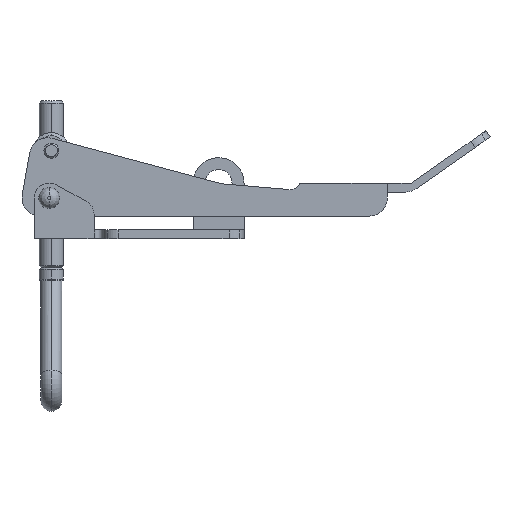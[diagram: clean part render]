
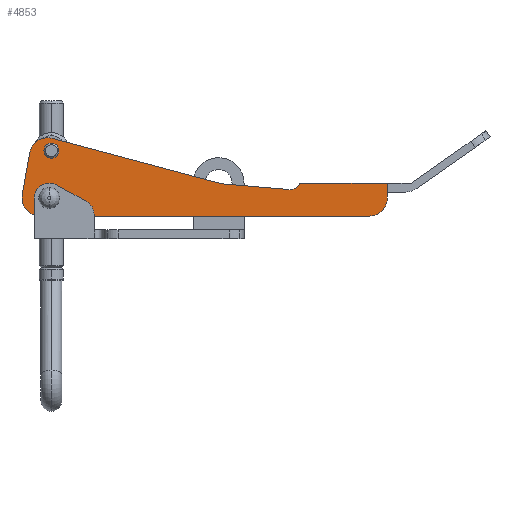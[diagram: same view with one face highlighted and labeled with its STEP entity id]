
A CAD part, front view. The second image highlights one B-rep face of the part: STEP entity #4853.
In plain terms, the highlighted planar face has unit normal (0, -1, 0) as drawn and (0, 0, 1) by its records, which use the part's own axes.
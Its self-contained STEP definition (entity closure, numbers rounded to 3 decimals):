
#2792=CARTESIAN_POINT('',(-59.09,11.357,30.5));
#2793=VERTEX_POINT('',#2792);
#2802=CARTESIAN_POINT('',(-54.313,12.093,30.5));
#2803=VERTEX_POINT('',#2802);
#2804=CARTESIAN_POINT('',(-55.866,6.297,30.5));
#2805=DIRECTION('',(0.0,0.0,-1.));
#2806=DIRECTION('',(-0.537,0.843,0.0));
#2807=AXIS2_PLACEMENT_3D('',#2804,#2805,#2806);
#2808=CIRCLE('',#2807,6.0);
#2809=EDGE_CURVE('',#2793,#2803,#2808,.T.);
#2834=CARTESIAN_POINT('',(-62.946,-11.644,30.5));
#2835=VERTEX_POINT('',#2834);
#2844=CARTESIAN_POINT('',(-64.258,-6.745,30.5));
#2845=VERTEX_POINT('',#2844);
#2846=CARTESIAN_POINT('',(-58.349,-7.787,30.5));
#2847=DIRECTION('',(0.0,0.0,-1.0));
#2848=DIRECTION('',(-0.766,-0.643,0.0));
#2849=AXIS2_PLACEMENT_3D('',#2846,#2847,#2848);
#2850=CIRCLE('',#2849,6.0);
#2851=EDGE_CURVE('',#2835,#2845,#2850,.T.);
#2960=CARTESIAN_POINT('',(26.426,-4.736,30.5));
#2961=VERTEX_POINT('',#2960);
#2970=CARTESIAN_POINT('',(27.571,-3.894,30.5));
#2971=VERTEX_POINT('',#2970);
#2972=CARTESIAN_POINT('',(25.273,-1.966,30.5));
#2973=DIRECTION('',(0.0,0.0,1.0));
#2974=DIRECTION('',(0.384,-0.923,0.0));
#2975=AXIS2_PLACEMENT_3D('',#2972,#2973,#2974);
#2976=CIRCLE('',#2975,3.);
#2977=EDGE_CURVE('',#2961,#2971,#2976,.T.);
#3147=CARTESIAN_POINT('',(55.743,-12.03,30.5));
#3148=VERTEX_POINT('',#3147);
#3157=CARTESIAN_POINT('',(51.5,-13.787,30.5));
#3158=VERTEX_POINT('',#3157);
#3159=CARTESIAN_POINT('',(51.5,-7.787,30.5));
#3160=DIRECTION('',(0.0,0.0,-1.));
#3161=DIRECTION('',(0.707,-0.707,0.0));
#3162=AXIS2_PLACEMENT_3D('',#3159,#3160,#3161);
#3163=CIRCLE('',#3162,6.0);
#3164=EDGE_CURVE('',#3148,#3158,#3163,.T.);
#3357=CARTESIAN_POINT('',(-52.048,8.014,30.5));
#3358=VERTEX_POINT('',#3357);
#3367=CARTESIAN_POINT('',(-57.048,8.014,30.5));
#3368=VERTEX_POINT('',#3367);
#3369=CARTESIAN_POINT('',(-54.548,8.014,30.5));
#3370=DIRECTION('',(0.0,0.0,-1.0));
#3371=DIRECTION('',(1.0,0.0,0.0));
#3372=AXIS2_PLACEMENT_3D('',#3369,#3370,#3371);
#3373=CIRCLE('',#3372,2.5);
#3374=EDGE_CURVE('',#3368,#3358,#3373,.T.);
#3441=CARTESIAN_POINT('',(-52.803,-7.787,30.5));
#3442=VERTEX_POINT('',#3441);
#3451=CARTESIAN_POINT('',(-57.803,-7.787,30.5));
#3452=VERTEX_POINT('',#3451);
#3453=CARTESIAN_POINT('',(-55.303,-7.787,30.5));
#3454=DIRECTION('',(0.0,0.0,-1.0));
#3455=DIRECTION('',(1.0,0.0,0.0));
#3456=AXIS2_PLACEMENT_3D('',#3453,#3454,#3455);
#3457=CIRCLE('',#3456,2.5);
#3458=EDGE_CURVE('',#3452,#3442,#3457,.T.);
#3558=CARTESIAN_POINT('',(-55.303,-7.787,30.5));
#3559=DIRECTION('',(0.0,0.0,-1.0));
#3560=DIRECTION('',(1.0,0.0,0.0));
#3561=AXIS2_PLACEMENT_3D('',#3558,#3559,#3560);
#3562=CIRCLE('',#3561,2.5);
#3563=EDGE_CURVE('',#3442,#3452,#3562,.T.);
#3606=CARTESIAN_POINT('',(-54.548,8.014,30.5));
#3607=DIRECTION('',(0.0,0.0,-1.0));
#3608=DIRECTION('',(1.0,0.0,0.0));
#3609=AXIS2_PLACEMENT_3D('',#3606,#3607,#3608);
#3610=CIRCLE('',#3609,2.5);
#3611=EDGE_CURVE('',#3358,#3368,#3610,.T.);
#3997=CARTESIAN_POINT('',(57.5,-7.787,30.5));
#3998=VERTEX_POINT('',#3997);
#4005=CARTESIAN_POINT('',(51.5,-7.787,30.5));
#4006=DIRECTION('',(0.0,0.0,-1.));
#4007=DIRECTION('',(0.707,-0.707,0.0));
#4008=AXIS2_PLACEMENT_3D('',#4005,#4006,#4007);
#4009=CIRCLE('',#4008,6.0);
#4010=EDGE_CURVE('',#3998,#3148,#4009,.T.);
#4028=CARTESIAN_POINT('',(57.5,-2.787,30.5));
#4029=VERTEX_POINT('',#4028);
#4036=CARTESIAN_POINT('',(57.5,-7.787,30.5));
#4037=DIRECTION('',(0.0,1.0,0.0));
#4038=VECTOR('',#4037,5.);
#4039=LINE('',#4036,#4038);
#4040=EDGE_CURVE('',#3998,#4029,#4039,.T.);
#4235=CARTESIAN_POINT('',(28.5,-2.787,30.5));
#4236=VERTEX_POINT('',#4235);
#4243=CARTESIAN_POINT('',(28.5,-2.787,30.5));
#4244=DIRECTION('',(1.0,0.0,0.0));
#4245=VECTOR('',#4244,29.0);
#4246=LINE('',#4243,#4245);
#4247=EDGE_CURVE('',#4236,#4029,#4246,.T.);
#4518=CARTESIAN_POINT('',(25.022,-4.955,30.5));
#4519=VERTEX_POINT('',#4518);
#4526=CARTESIAN_POINT('',(25.273,-1.966,30.5));
#4527=DIRECTION('',(0.0,0.0,1.0));
#4528=DIRECTION('',(0.384,-0.923,0.0));
#4529=AXIS2_PLACEMENT_3D('',#4526,#4527,#4528);
#4530=CIRCLE('',#4529,3.);
#4531=EDGE_CURVE('',#4519,#2961,#4530,.T.);
#4542=CARTESIAN_POINT('',(27.571,-3.894,30.5));
#4543=DIRECTION('',(0.643,0.766,0.0));
#4544=VECTOR('',#4543,1.445);
#4545=LINE('',#4542,#4544);
#4546=EDGE_CURVE('',#2971,#4236,#4545,.T.);
#4645=CARTESIAN_POINT('',(-58.349,-13.787,30.5));
#4646=VERTEX_POINT('',#4645);
#4653=CARTESIAN_POINT('',(-58.349,-7.787,30.5));
#4654=DIRECTION('',(0.0,0.0,-1.0));
#4655=DIRECTION('',(-0.766,-0.643,0.0));
#4656=AXIS2_PLACEMENT_3D('',#4653,#4654,#4655);
#4657=CIRCLE('',#4656,6.0);
#4658=EDGE_CURVE('',#4646,#2835,#4657,.T.);
#4669=CARTESIAN_POINT('',(-61.775,7.339,30.5));
#4670=VERTEX_POINT('',#4669);
#4671=CARTESIAN_POINT('',(-64.258,-6.745,30.5));
#4672=DIRECTION('',(0.174,0.985,0.0));
#4673=VECTOR('',#4672,14.302);
#4674=LINE('',#4671,#4673);
#4675=EDGE_CURVE('',#2845,#4670,#4674,.T.);
#4695=CARTESIAN_POINT('',(-55.866,6.297,30.5));
#4696=DIRECTION('',(0.0,0.0,-1.));
#4697=DIRECTION('',(-0.537,0.843,0.0));
#4698=AXIS2_PLACEMENT_3D('',#4695,#4696,#4697);
#4699=CIRCLE('',#4698,6.0);
#4700=EDGE_CURVE('',#4670,#2793,#4699,.T.);
#4771=CARTESIAN_POINT('',(51.5,-13.787,30.5));
#4772=DIRECTION('',(-1.0,0.0,0.0));
#4773=VECTOR('',#4772,109.849);
#4774=LINE('',#4771,#4773);
#4775=EDGE_CURVE('',#3158,#4646,#4774,.T.);
#4789=CARTESIAN_POINT('',(2.147,-3.036,30.5));
#4790=VERTEX_POINT('',#4789);
#4797=CARTESIAN_POINT('',(2.147,-3.036,30.5));
#4798=DIRECTION('',(0.996,-0.084,0.0));
#4799=VECTOR('',#4798,22.955);
#4800=LINE('',#4797,#4799);
#4801=EDGE_CURVE('',#4790,#4519,#4800,.T.);
#4812=CARTESIAN_POINT('',(-54.313,12.093,30.5));
#4813=DIRECTION('',(0.966,-0.259,0.0));
#4814=VECTOR('',#4813,58.452);
#4815=LINE('',#4812,#4814);
#4816=EDGE_CURVE('',#2803,#4790,#4815,.T.);
#4823=CARTESIAN_POINT('',(-2.794,-5.67,30.5));
#4824=DIRECTION('',(0.0,0.0,1.0));
#4825=DIRECTION('',(1.0,0.0,0.0));
#4826=AXIS2_PLACEMENT_3D('',#4823,#4824,#4825);
#4827=PLANE('',#4826);
#4828=ORIENTED_EDGE('',*,*,#4010,.F.);
#4829=ORIENTED_EDGE('',*,*,#4040,.T.);
#4830=ORIENTED_EDGE('',*,*,#4247,.F.);
#4831=ORIENTED_EDGE('',*,*,#4546,.F.);
#4832=ORIENTED_EDGE('',*,*,#2977,.F.);
#4833=ORIENTED_EDGE('',*,*,#4531,.F.);
#4834=ORIENTED_EDGE('',*,*,#4801,.F.);
#4835=ORIENTED_EDGE('',*,*,#4816,.F.);
#4836=ORIENTED_EDGE('',*,*,#2809,.F.);
#4837=ORIENTED_EDGE('',*,*,#4700,.F.);
#4838=ORIENTED_EDGE('',*,*,#4675,.F.);
#4839=ORIENTED_EDGE('',*,*,#2851,.F.);
#4840=ORIENTED_EDGE('',*,*,#4658,.F.);
#4841=ORIENTED_EDGE('',*,*,#4775,.F.);
#4842=ORIENTED_EDGE('',*,*,#3164,.F.);
#4843=EDGE_LOOP('',(#4828,#4829,#4830,#4831,#4832,#4833,#4834,#4835,#4836,#4837,#4838,#4839,#4840,#4841,#4842));
#4844=FACE_OUTER_BOUND('',#4843,.T.);
#4845=ORIENTED_EDGE('',*,*,#3458,.T.);
#4846=ORIENTED_EDGE('',*,*,#3563,.T.);
#4847=EDGE_LOOP('',(#4845,#4846));
#4848=FACE_BOUND('',#4847,.T.);
#4849=ORIENTED_EDGE('',*,*,#3374,.T.);
#4850=ORIENTED_EDGE('',*,*,#3611,.T.);
#4851=EDGE_LOOP('',(#4849,#4850));
#4852=FACE_BOUND('',#4851,.T.);
#4853=ADVANCED_FACE('',(#4844,#4848,#4852),#4827,.T.);
